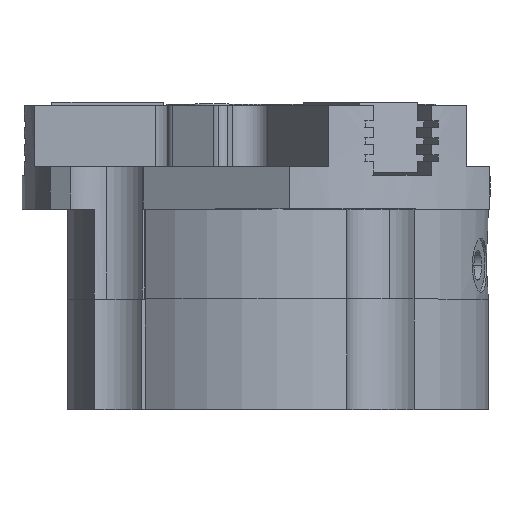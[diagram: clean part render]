
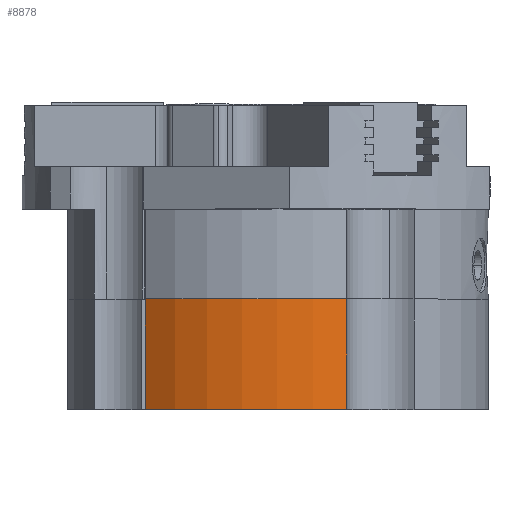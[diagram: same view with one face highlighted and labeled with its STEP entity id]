
A CAD part, top view. The second image highlights one B-rep face of the part: STEP entity #8878.
In plain terms, the highlighted cylindrical face has radius 62.5 mm (diameter 125 mm), a partial arc.
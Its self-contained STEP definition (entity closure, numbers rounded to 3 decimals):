
#583 = CARTESIAN_POINT ( 'NONE',  ( -58.93, -23.5, 20.822 ) ) ;
#595 = CYLINDRICAL_SURFACE ( 'NONE', #5170, 62.5 ) ;
#749 = EDGE_CURVE ( 'NONE', #10627, #3975, #11096, .T. ) ;
#1788 = DIRECTION ( 'NONE',  ( 0., -1., 0. ) ) ;
#2161 = AXIS2_PLACEMENT_3D ( 'NONE', #4001, #5082, #9405 ) ;
#2208 = VECTOR ( 'NONE', #12209, 1000. ) ;
#2309 = ORIENTED_EDGE ( 'NONE', *, *, #749, .T. ) ;
#2984 = CARTESIAN_POINT ( 'NONE',  ( -58.93, 0., 20.822 ) ) ;
#3122 = VERTEX_POINT ( 'NONE', #2984 ) ;
#3975 = VERTEX_POINT ( 'NONE', #5288 ) ;
#4001 = CARTESIAN_POINT ( 'NONE',  ( 0., 32.5, 0. ) ) ;
#4384 = ORIENTED_EDGE ( 'NONE', *, *, #10045, .T. ) ;
#4665 = CARTESIAN_POINT ( 'NONE',  ( -58.93, 32.5, 20.822 ) ) ;
#5082 = DIRECTION ( 'NONE',  ( 0., -1., 0. ) ) ;
#5170 = AXIS2_PLACEMENT_3D ( 'NONE', #8094, #11271, #6974 ) ;
#5221 = EDGE_CURVE ( 'NONE', #3122, #10627, #9715, .T. ) ;
#5288 = CARTESIAN_POINT ( 'NONE',  ( -49.109, 32.5, -38.659 ) ) ;
#5569 = ORIENTED_EDGE ( 'NONE', *, *, #10050, .T. ) ;
#6399 = VECTOR ( 'NONE', #1788, 1000. ) ;
#6609 = EDGE_LOOP ( 'NONE', ( #2309, #5569, #4384, #11894 ) ) ;
#6723 = CIRCLE ( 'NONE', #12281, 62.5 ) ;
#6974 = DIRECTION ( 'NONE',  ( 0., 0., -1. ) ) ;
#8094 = CARTESIAN_POINT ( 'NONE',  ( 0., 32.5, 0. ) ) ;
#8878 = ADVANCED_FACE ( 'NONE', ( #12849 ), #595, .T. ) ;
#9199 = DIRECTION ( 'NONE',  ( 0., 1., 0. ) ) ;
#9244 = LINE ( 'NONE', #13418, #6399 ) ;
#9405 = DIRECTION ( 'NONE',  ( 0., 0., -1. ) ) ;
#9715 = LINE ( 'NONE', #583, #2208 ) ;
#10045 = EDGE_CURVE ( 'NONE', #10062, #3122, #6723, .T. ) ;
#10050 = EDGE_CURVE ( 'NONE', #3975, #10062, #9244, .T. ) ;
#10062 = VERTEX_POINT ( 'NONE', #10304 ) ;
#10304 = CARTESIAN_POINT ( 'NONE',  ( -49.109, 0., -38.659 ) ) ;
#10627 = VERTEX_POINT ( 'NONE', #4665 ) ;
#11096 = CIRCLE ( 'NONE', #2161, 62.5 ) ;
#11248 = DIRECTION ( 'NONE',  ( 0., 0., -1. ) ) ;
#11271 = DIRECTION ( 'NONE',  ( 0., -1., 0. ) ) ;
#11396 = CARTESIAN_POINT ( 'NONE',  ( 0., 0., 0. ) ) ;
#11894 = ORIENTED_EDGE ( 'NONE', *, *, #5221, .T. ) ;
#12209 = DIRECTION ( 'NONE',  ( 0., 1., 0. ) ) ;
#12281 = AXIS2_PLACEMENT_3D ( 'NONE', #11396, #9199, #11248 ) ;
#12849 = FACE_OUTER_BOUND ( 'NONE', #6609, .T. ) ;
#13418 = CARTESIAN_POINT ( 'NONE',  ( -49.109, 32.5, -38.659 ) ) ;
